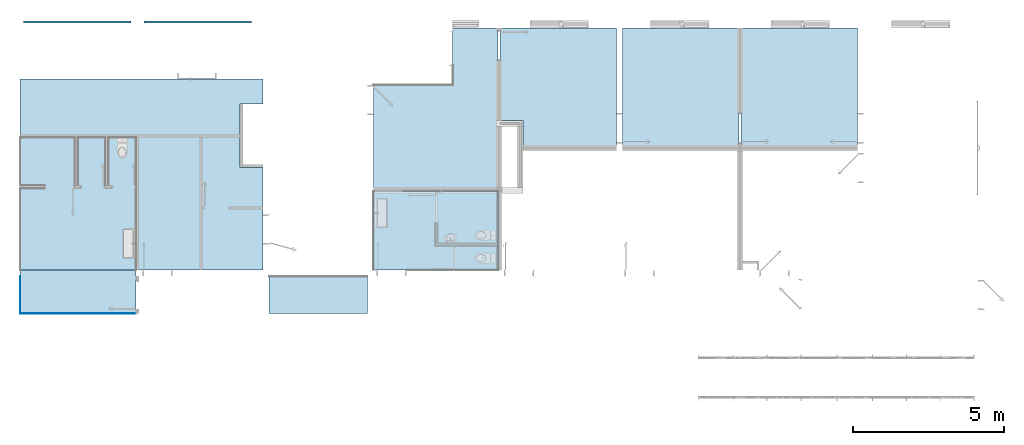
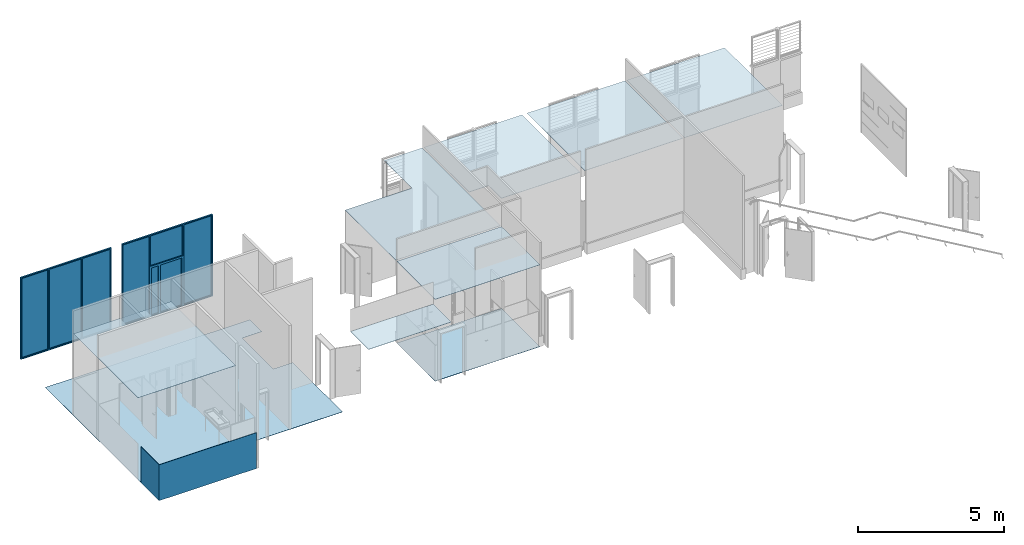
# One storey, part 1 of 18: 9 slabs, 2 plates, 2 walls.
"""IFC2X3 building model written with IfcOpenShell, lengths in metres."""

from ifc_helpers import new_model, entity, si_unit, converted_unit, derived_unit, direction, frame, frame_2d, origin, place, context, subcontext, project, spatial, polyline, rectangle, outline, extrude, source, transform, mapped, material, material_list, layer, layer_set, layer_usage, type_object, type_shapes, element, save


model = new_model("IFC2X3")

# Units and contexts
model_context = context("Model", 3, precision=1e-05, world=origin(), true_north=direction((6.12303176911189e-17, 1.0)))
body_context = subcontext(model_context, "Body", "Model", "MODEL_VIEW")
ifc_project = project(units=[si_unit("LENGTHUNIT", "METRE"), si_unit("AREAUNIT", "SQUARE_METRE"), si_unit("VOLUMEUNIT", "CUBIC_METRE"), converted_unit("PLANEANGLEUNIT", "DEGREE", entity("IfcRatioMeasure", 0.0174532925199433), si_unit("PLANEANGLEUNIT", "RADIAN"), dimensions=[0, 0, 0, 0, 0, 0, 0]), si_unit("MASSUNIT", "GRAM", prefix="KILO"), derived_unit("MASSDENSITYUNIT", [(si_unit("MASSUNIT", "GRAM", prefix="KILO"), 1), (si_unit("LENGTHUNIT", "METRE"), -3)]), si_unit("TIMEUNIT", "SECOND"), si_unit("FREQUENCYUNIT", "HERTZ"), si_unit("THERMODYNAMICTEMPERATUREUNIT", "DEGREE_CELSIUS"), derived_unit("THERMALTRANSMITTANCEUNIT", [(si_unit("MASSUNIT", "GRAM", prefix="KILO"), 1), (si_unit("THERMODYNAMICTEMPERATUREUNIT", "KELVIN"), -1), (si_unit("TIMEUNIT", "SECOND"), -3)]), derived_unit("VOLUMETRICFLOWRATEUNIT", [(si_unit("LENGTHUNIT", "METRE"), 3), (si_unit("TIMEUNIT", "SECOND"), -1)]), si_unit("ELECTRICCURRENTUNIT", "AMPERE"), si_unit("ELECTRICVOLTAGEUNIT", "VOLT"), si_unit("POWERUNIT", "WATT"), si_unit("FORCEUNIT", "NEWTON", prefix="KILO"), si_unit("ILLUMINANCEUNIT", "LUX"), si_unit("LUMINOUSFLUXUNIT", "LUMEN"), si_unit("LUMINOUSINTENSITYUNIT", "CANDELA"), derived_unit("USERDEFINED", [(si_unit("MASSUNIT", "GRAM", prefix="KILO"), -1), (si_unit("LENGTHUNIT", "METRE"), -2), (si_unit("TIMEUNIT", "SECOND"), 3), (si_unit("LUMINOUSFLUXUNIT", "LUMEN"), 1)]), derived_unit("LINEARVELOCITYUNIT", [(si_unit("LENGTHUNIT", "METRE"), 1), (si_unit("TIMEUNIT", "SECOND"), -1)]), si_unit("PRESSUREUNIT", "PASCAL"), derived_unit("USERDEFINED", [(si_unit("LENGTHUNIT", "METRE"), -2), (si_unit("MASSUNIT", "GRAM", prefix="KILO"), 1), (si_unit("TIMEUNIT", "SECOND"), -2)])], contexts=[model_context])

# Site, building, storey
site_placement = place(None, origin())
site = spatial("IfcSite", under=ifc_project, at=site_placement, Name="Surface", CompositionType="ELEMENT")
building_placement = place(site_placement, origin())
building = spatial("IfcBuilding", under=site, at=building_placement, Name="ExPREF", CompositionType="ELEMENT")
storey_placement = place(building_placement, frame((0.0, 0.0, -4.62)))
storey = spatial("IfcBuildingStorey", under=building, at=storey_placement, Name="R-1", CompositionType="ELEMENT", Elevation=-4.62)

# Plates
ifc_material_1 = material(Name="AA-Tôle déployée")
ifc_material_2 = material(Name="AA-Aluminium")
ifc_material_list_1 = material_list([ifc_material_1, ifc_material_2])
ifc_material_list_2 = material_list([ifc_material_1, ifc_material_2])
plate_type_1 = type_object("IfcPlateType", Name="GRILLE AVEC PORTE", PredefinedType="NOTDEFINED", material=ifc_material_list_2)
shared_shape_1 = source(origin(), body_context, "Body", "SweptSolid", [
    extrude(rectangle(XDim=0.00999999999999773, YDim=0.349999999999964, at=frame_2d((1.73259843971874e-14, 4.32986979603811e-15), x_axis=(1.0, 0.0))), frame((1.30148892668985, 0.0550000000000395, 0.0), z_axis=(0.0, 0.0, 1.0), x_axis=(0.0, -1.0, 0.0)), (0.0, 0.0, 1.0), 2.06000000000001),
    extrude(rectangle(XDim=0.00999999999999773, YDim=0.919999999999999, at=frame_2d((1.73259843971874e-14, 0.0), x_axis=(1.0, 0.0))), frame((1.93648892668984, 0.0550000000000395, 0.0), z_axis=(0.0, 0.0, 1.0), x_axis=(0.0, -1.0, 0.0)), (0.0, 0.0, 1.0), 2.06000000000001),
    extrude(outline(polyline([(-1.7757444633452, -2.042499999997), (1.80425553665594, -2.042499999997), (1.80425553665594, 1.367499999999), (0.620744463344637, 1.367499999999), (0.620744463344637, -0.692500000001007), (-0.64925553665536, -0.692500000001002), (-0.649255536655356, 1.367499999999), (-1.7757444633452, 1.367499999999), (-1.7757444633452, -2.042499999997)])), frame((1.7757444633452, 0.0500000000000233, 1.36749999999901), z_axis=(0.0, 1.0, 0.0), x_axis=(1.0, 0.0, 0.0)), (0.0, 0.0, 1.0), 0.00999999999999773),
    extrude(outline(polyline([(-0.174999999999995, -1.03), (0.175000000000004, -1.03), (0.174999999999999, 1.03), (-0.174999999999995, 1.03000000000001), (-0.174999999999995, -1.03)]), holes=[polyline([(0.139999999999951, 0.990000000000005), (0.139999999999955, -0.990000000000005), (-0.135000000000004, -0.990000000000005), (-0.135000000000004, 0.990000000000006), (0.139999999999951, 0.990000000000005)])]), frame((1.30148892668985, 0.0, 1.03), z_axis=(0.0, 1.0, 0.0), x_axis=(-1.0, 0.0, 0.0)), (0.0, 0.0, 1.0), 0.0499999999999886),
    extrude(outline(polyline([(-0.460000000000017, -1.03), (0.460000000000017, -1.03), (0.460000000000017, 1.03), (-0.460000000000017, 1.03000000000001), (-0.460000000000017, -1.03)]), holes=[polyline([(0.420000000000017, 0.990000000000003), (0.420000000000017, -0.990000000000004), (-0.420000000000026, -0.990000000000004), (-0.420000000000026, 0.990000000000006), (0.420000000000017, 0.990000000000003)])]), frame((1.93648892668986, 0.0, 1.03000000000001), z_axis=(0.0, 1.0, 0.0), x_axis=(-1.0, 0.0, 0.0)), (0.0, 0.0, 1.0), 0.0499999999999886),
    extrude(outline(polyline([(-1.7757444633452, -2.042499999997), (1.80425553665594, -2.042499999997), (1.80425553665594, 1.367499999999), (0.620744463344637, 1.367499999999), (0.620744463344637, -0.692500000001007), (-0.649255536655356, -0.692500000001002), (-0.64925553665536, 1.367499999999), (-1.7757444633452, 1.367499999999), (-1.7757444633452, -2.042499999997)]), holes=[polyline([(1.76425553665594, -2.002499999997), (0.660744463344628, -2.002499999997), (0.660744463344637, 1.327499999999), (1.76425553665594, 1.327499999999), (1.76425553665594, -2.002499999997)]), polyline([(-1.7357444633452, 1.327499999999), (-0.690628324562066, 1.327499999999), (-0.690628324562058, -2.002499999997), (-1.7357444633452, -2.002499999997), (-1.7357444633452, 1.327499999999)]), polyline([(0.620744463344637, -0.732500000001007), (0.620744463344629, -2.002499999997), (-0.649255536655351, -2.002499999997), (-0.649255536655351, -0.732500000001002), (0.620744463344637, -0.732500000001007)])]), frame((1.7757444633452, 0.0, 1.36749999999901), z_axis=(0.0, 1.0, 0.0), x_axis=(1.0, 0.0, 0.0)), (0.0, 0.0, 1.0), 0.0499999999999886),
])
type_shapes(plate_type_1, [shared_shape_1])
plate_1_placement = place(storey_placement, frame((37.6997436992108, -185.056488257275, 0.0)))
element("IfcPlate", 1, at=plate_1_placement, inside=storey, type_object=plate_type_1, material=ifc_material_list_1, Name="GRILLE AVEC PORTE:GRILLE AVEC PORTE", ObjectType="GRILLE AVEC PORTE", context=body_context, shape_type="MappedRepresentation", body=[
    mapped(shared_shape_1, transform((0.0, 0.0, 0.0), scale=1.0)),
])
ifc_material_list_3 = material_list([ifc_material_1, ifc_material_2])
ifc_material_list_4 = material_list([ifc_material_1, ifc_material_2])
plate_type_2 = type_object("IfcPlateType", Name="GRILLE AVEC PORTE", PredefinedType="NOTDEFINED", material=ifc_material_list_4)
shared_shape_2 = source(origin(), body_context, "Body", "SweptSolid", [
    extrude(rectangle(XDim=0.00999999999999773, YDim=3.58000000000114, at=frame_2d((-1.73259843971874e-14, 0.0), x_axis=(1.0, 0.0))), frame((1.79000000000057, 0.0550000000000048, 0.0), z_axis=(0.0, 0.0, 1.0), x_axis=(0.0, -1.0, 0.0)), (0.0, 0.0, 1.0), 3.4099999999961),
    extrude(outline(polyline([(-1.79000000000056, -1.70499999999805), (1.79000000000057, -1.70499999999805), (1.79000000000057, 1.70499999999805), (-1.79000000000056, 1.70499999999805), (-1.79000000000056, -1.70499999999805)]), holes=[polyline([(1.75000000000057, -1.66499999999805), (0.646488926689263, -1.66499999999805), (0.646488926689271, 1.66499999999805), (1.75000000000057, 1.66499999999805), (1.75000000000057, -1.66499999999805)]), polyline([(-1.75000000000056, 1.66499999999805), (-0.703511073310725, 1.66499999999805), (-0.703511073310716, -1.66499999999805), (-1.75000000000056, -1.66499999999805), (-1.75000000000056, 1.66499999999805)]), polyline([(0.606488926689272, 1.66499999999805), (0.606488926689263, -1.66499999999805), (-0.663511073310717, -1.66499999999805), (-0.663511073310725, 1.66499999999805), (0.606488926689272, 1.66499999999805)])]), frame((1.79000000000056, 0.0, 1.70499999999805), z_axis=(0.0, 1.0, 0.0), x_axis=(1.0, 0.0, 0.0)), (0.0, 0.0, 1.0), 0.0499999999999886),
])
type_shapes(plate_type_2, [shared_shape_2])
plate_2_placement = place(storey_placement, frame((33.6997436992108, -185.056488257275, 0.0)))
element("IfcPlate", 2, at=plate_2_placement, inside=storey, type_object=plate_type_2, material=ifc_material_list_3, Name="GRILLE AVEC PORTE1:GRILLE AVEC PORTE", ObjectType="GRILLE AVEC PORTE", context=body_context, shape_type="MappedRepresentation", body=[
    mapped(shared_shape_2, transform((0.0, 0.0, 0.0), scale=1.0)),
])

# Slabs
ifc_material_3 = material(Name="AA-sol carrelage")
ifc_layer_1 = layer(ifc_material_3, 0.01)
ifc_layer_set_1 = layer_set([ifc_layer_1], Name="Sol:A-carrelage sol")
ifc_layer_usage_1 = layer_usage(ifc_layer_set_1, "AXIS3", "POSITIVE", 0.0)
slab_1_placement = place(storey_placement, frame((33.5897436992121, -194.701320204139, 0.0)))
element("IfcSlab", 3, at=slab_1_placement, inside=storey, material=ifc_layer_usage_1, Name="Sol:A-carrelage sol", ObjectType="Sol:A-carrelage sol", PredefinedType="FLOOR", context=body_context, shape_type="SweptSolid", body=[
    extrude(outline(polyline([(7.93249999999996, 3.89341597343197), (-0.137499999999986, 3.893415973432), (-0.137499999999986, 3.06883460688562), (0.629500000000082, 3.06883460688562), (0.629500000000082, 0.9498346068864), (-0.137500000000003, 0.9498346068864), (-0.137500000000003, -2.45174707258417), (4.08249999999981, -2.45174707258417), (4.08249999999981, -3.893415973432), (7.93249999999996, -3.893415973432), (7.93249999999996, 3.89341597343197)])), frame((7.93249999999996, 3.893415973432, 0.0100000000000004), z_axis=(0.0, 0.0, -1.0), x_axis=(-1.0, 0.0, 0.0)), (0.0, 0.0, 1.0), 0.00999999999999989),
])
slab_2_placement = place(storey_placement, frame((33.5897436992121, -194.701320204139, 0.0)))
element("IfcSlab", 4, at=slab_2_placement, inside=storey, material=ifc_layer_usage_1, Name="Sol:A-carrelage sol:2", ObjectType="Sol:A-carrelage sol", PredefinedType="FLOOR", context=body_context, shape_type="SweptSolid", body=[
    extrude(rectangle(XDim=2.62658136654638, YDim=4.13500000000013, at=frame_2d((-5.8649999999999, -1.13845638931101), x_axis=(0.0, 1.0))), frame((7.93249999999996, 3.893415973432, 0.0100000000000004), z_axis=(0.0, 0.0, -1.0), x_axis=(-1.0, 0.0, 0.0)), (0.0, 0.0, 1.0), 0.00999999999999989),
])
ifc_material_4 = material(Name="AA-fermacell peint")
ifc_layer_2 = layer(ifc_material_4, 0.0125)
ifc_layer_set_2 = layer_set([ifc_layer_2], Name="Sol:A-BA13 12.5mm")
ifc_layer_usage_2 = layer_usage(ifc_layer_set_2, "AXIS3", "POSITIVE", 0.0)
slab_3_placement = place(storey_placement, frame((33.5897436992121, -194.701320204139, 3.41)))
element("IfcSlab", 5, at=slab_3_placement, inside=storey, material=ifc_layer_usage_2, Name="Sol:A-BA13 12.5mm", ObjectType="Sol:A-BA13 12.5mm", PredefinedType="FLOOR", context=body_context, shape_type="SweptSolid", body=[
    extrude(rectangle(XDim=4.13500000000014, YDim=2.62658136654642, at=frame_2d((-5.86499999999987, -0.171468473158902), x_axis=(-1.0, 0.0))), frame((7.93249999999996, 2.9264280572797, 0.0125000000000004), z_axis=(0.0, 0.0, -1.0), x_axis=(-1.0, 0.0, 0.0)), (0.0, 0.0, 1.0), 0.0125),
])
slab_4_placement = place(storey_placement, frame((33.5897436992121, -194.701320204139, 3.41)))
element("IfcSlab", 6, at=slab_4_placement, inside=storey, material=ifc_layer_usage_2, Name="Sol:A-BA13 12.5mm:2", ObjectType="Sol:A-BA13 12.5mm", PredefinedType="FLOOR", context=body_context, shape_type="SweptSolid", body=[
    extrude(rectangle(XDim=3.25999999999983, YDim=1.2416689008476, at=frame_2d((-1.9674999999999, -2.3055936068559), x_axis=(-1.0, 0.0))), frame((7.93249999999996, 2.9264280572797, 0.0125000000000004), z_axis=(0.0, 0.0, -1.0), x_axis=(-1.0, 0.0, 0.0)), (0.0, 0.0, 1.0), 0.0125),
])
slab_5_placement = place(storey_placement, frame((33.5897436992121, -194.701320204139, 3.41)))
element("IfcSlab", 7, at=slab_5_placement, inside=storey, material=ifc_layer_usage_2, Name="Sol:A-BA13 12.5mm:3", ObjectType="Sol:A-BA13 12.5mm", PredefinedType="FLOOR", context=body_context, shape_type="SweptSolid", body=[
    extrude(rectangle(XDim=3.85000000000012, YDim=4.41118721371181, at=frame_2d((6.00749999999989, 0.720834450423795), x_axis=(-1.0, 0.0))), frame((7.93249999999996, 2.9264280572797, 0.0125000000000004), z_axis=(0.0, 0.0, -1.0), x_axis=(-1.0, 0.0, 0.0)), (0.0, 0.0, 1.0), 0.0125),
])
ifc_layer_usage_3 = layer_usage(ifc_layer_set_2, "AXIS3", "POSITIVE", 0.0)
slab_6_placement = place(storey_placement, frame((45.3197436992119, -190.563069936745, 3.41)))
element("IfcSlab", 8, at=slab_6_placement, inside=storey, material=ifc_layer_usage_3, Name="Sol:A-BA13 12.5mm", ObjectType="Sol:A-BA13 12.5mm", PredefinedType="FLOOR", context=body_context, shape_type="SweptSolid", body=[
    extrude(rectangle(XDim=3.95858152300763, YDim=3.86499999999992, at=frame_2d((-6.10249999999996, 0.695000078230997), x_axis=(0.0, 1.0))), frame((8.03499999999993, 2.67429083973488, 0.0125000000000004), z_axis=(0.0, 0.0, -1.0), x_axis=(-1.0, 0.0, 0.0)), (0.0, 0.0, 1.0), 0.0125),
])
slab_7_placement = place(storey_placement, frame((45.3197436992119, -190.563069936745, 3.41)))
element("IfcSlab", 9, at=slab_7_placement, inside=storey, material=ifc_layer_usage_3, Name="Sol:A-BA13 12.5mm:2", ObjectType="Sol:A-BA13 12.5mm", PredefinedType="FLOOR", context=body_context, shape_type="SweptSolid", body=[
    extrude(rectangle(XDim=3.86499999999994, YDim=3.95858152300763, at=frame_2d((-2.16750000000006, 0.695000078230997), x_axis=(-1.0, 0.0))), frame((8.03499999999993, 2.67429083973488, 0.0125000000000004), z_axis=(0.0, 0.0, -1.0), x_axis=(-1.0, 0.0, 0.0)), (0.0, 0.0, 1.0), 0.0125),
])
slab_8_placement = place(storey_placement, frame((45.3197436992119, -190.563069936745, 3.41)))
element("IfcSlab", 10, at=slab_8_placement, inside=storey, material=ifc_layer_usage_3, Name="Sol:A-BA13 12.5mm:3", ObjectType="Sol:A-BA13 12.5mm", PredefinedType="FLOOR", context=body_context, shape_type="SweptSolid", body=[
    extrude(outline(polyline([(3.06299999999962, -1.28429068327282), (3.06299999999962, -0.407290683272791), (3.82999999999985, -0.407290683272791), (3.82999999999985, 2.67429083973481), (-0.0350000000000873, 2.67429083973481), (-0.0350000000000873, -1.28429068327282), (3.06299999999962, -1.28429068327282)])), frame((8.03499999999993, 2.67429083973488, 0.0125000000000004), z_axis=(0.0, 0.0, -1.0), x_axis=(-1.0, 0.0, 0.0)), (0.0, 0.0, 1.0), 0.0125),
])
slab_9_placement = place(storey_placement, frame((45.3197436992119, -190.563069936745, 3.41)))
element("IfcSlab", 11, at=slab_9_placement, inside=storey, material=ifc_layer_usage_3, Name="Sol:A-BA13 12.5mm:4", ObjectType="Sol:A-BA13 12.5mm", PredefinedType="FLOOR", context=body_context, shape_type="SweptSolid", body=[
    extrude(outline(polyline([(8.03499999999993, -2.67429083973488), (8.03499999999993, 0.782290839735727), (5.40499999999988, 0.782290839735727), (5.40499999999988, 2.67429083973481), (3.89999999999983, 2.67429083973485), (3.89999999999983, -2.67429083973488), (8.03499999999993, -2.67429083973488)])), frame((8.03499999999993, 2.67429083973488, 0.0125000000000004), z_axis=(0.0, 0.0, -1.0), x_axis=(-1.0, 0.0, 0.0)), (0.0, 0.0, 1.0), 0.0125),
])

# Walls
ifc_layer_3 = layer(ifc_material_3, 0.01)
ifc_layer_set_3 = layer_set([ifc_layer_3], Name="Mur de base:A-carrelage")
ifc_layer_usage_4 = layer_usage(ifc_layer_set_3, "AXIS2", "NEGATIVE", 0.005)
wall_type = type_object("IfcWallType", Name="Mur de base:A-carrelage", PredefinedType="STANDARD", material=ifc_layer_set_3)
wall_1_placement = place(storey_placement, frame((37.4297436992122, -194.696320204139, 0.0), z_axis=(0.0, 0.0, 1.0), x_axis=(-1.0, 0.0, 0.0)))
element("IfcWallStandardCase", 12, at=wall_1_placement, inside=storey, type_object=wall_type, material=ifc_layer_usage_4, Name="Mur de base:A-carrelage", ObjectType="Mur de base:A-carrelage", context=body_context, shape_type="SweptSolid", body=[
    extrude(rectangle(XDim=3.84000000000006, YDim=0.0100000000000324, at=frame_2d((1.92000000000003, 0.0), x_axis=(-1.0, 0.0))), origin(), (0.0, 0.0, 1.0), 1.5),
])
ifc_layer_usage_5 = layer_usage(ifc_layer_set_3, "AXIS2", "NEGATIVE", 0.005)
wall_2_placement = place(storey_placement, frame((33.5947436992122, -194.691320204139, 0.0), z_axis=(0.0, 0.0, 1.0), x_axis=(0.0, 1.0, 0.0)))
element("IfcWallStandardCase", 13, at=wall_2_placement, inside=storey, type_object=wall_type, material=ifc_layer_usage_5, Name="Mur de base:A-carrelage", ObjectType="Mur de base:A-carrelage", context=body_context, shape_type="SweptSolid", body=[
    extrude(rectangle(XDim=1.23166890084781, YDim=0.00999999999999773, at=frame_2d((0.615834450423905, 0.0), x_axis=(-1.0, 0.0))), origin(), (0.0, 0.0, 1.0), 1.5),
])

save(model, "model.ifc")
